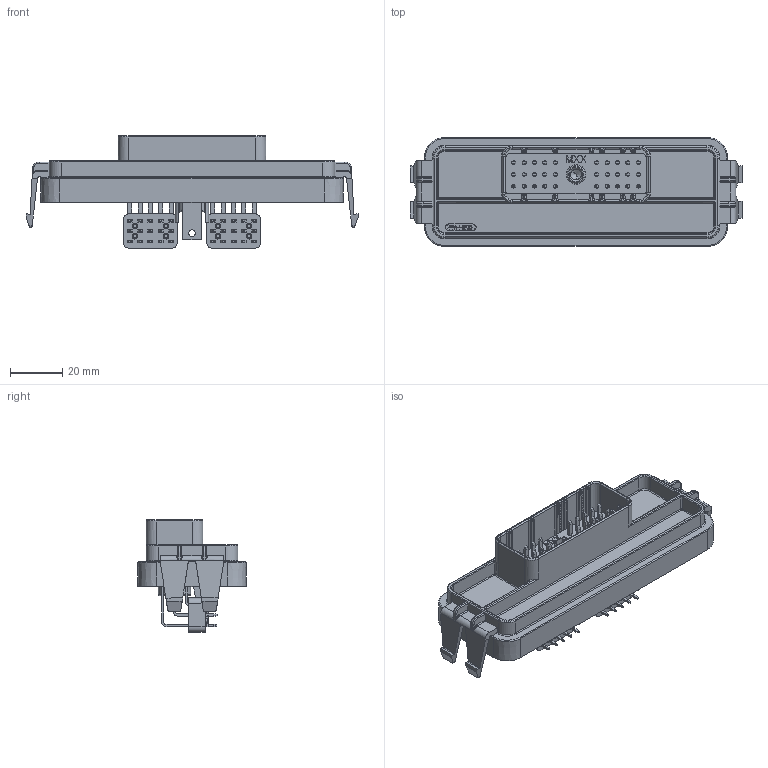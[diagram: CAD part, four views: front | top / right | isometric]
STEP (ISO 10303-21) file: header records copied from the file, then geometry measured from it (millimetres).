
FILE_DESCRIPTION((''),'2;1');
FILE_NAME('5810130072_ASM','2012-06-19T',('evxr'),(''),'PRO/ENGINEER BY PARAMETRIC TECHNOLOGY CORPORATION, 2009141','PRO/ENGINEER BY PARAMETRIC TECHNOLOGY CORPORATION, 2009141','');
FILE_SCHEMA(('CONFIG_CONTROL_DESIGN'));
Length unit declared in the file: inch
Products named in the file (10): 4828770228-PLASTIC; 4624111583HEX; 4828770228_ASM; 4040011205_TYPE1; 4040011206_TYPE2; 4040011207_TYPE3; 5810148005_15PIN_EPOXY; 4630899118; 4741199176; 5810130072_ASM
Assembly tree (38 placements, depth 3):
  5810130072_ASM
    4828770228_ASM
      4828770228-PLASTIC
      4624111583HEX
    4040011205_TYPE1  x10
    4040011206_TYPE2  x10
    4040011207_TYPE3  x10
    5810148005_15PIN_EPOXY  x2
    4630899118
    4741199176  x2
Bounding box: 126.6 x 41.34 x 42.97 mm (x, y, z)
Volume: 39771.3 mm3; surface area: 49523.4 mm2
Topology: 37 solids, 37 shells, 4343 faces, 12010 edges, 7732 vertices
Faces by surface type: plane 3055, cylinder 902, torus 126, extrusion 116, cone 98, sphere 24, bspline 22
Entity records: 89425 total; most frequent: CARTESIAN_POINT 19712, ORIENTED_EDGE 14880, DIRECTION 13591, EDGE_CURVE 7440, VECTOR 5963, LINE 5847, VERTEX_POINT 4784, AXIS2_PLACEMENT_3D 3814
